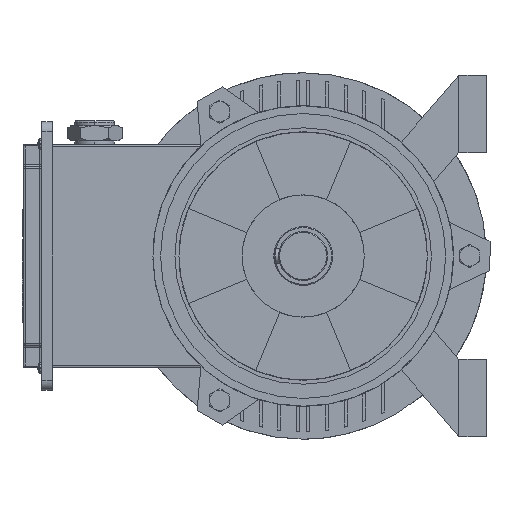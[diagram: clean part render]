
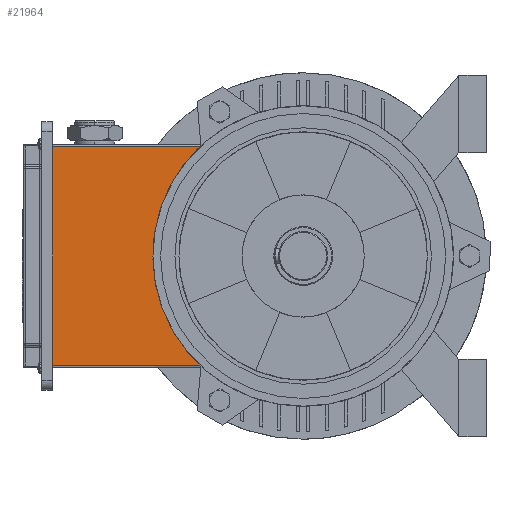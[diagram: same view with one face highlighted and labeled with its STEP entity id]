
A CAD part, left-side view. The second image highlights one B-rep face of the part: STEP entity #21964.
In plain terms, the highlighted planar face has unit normal (-1, 0, 0).
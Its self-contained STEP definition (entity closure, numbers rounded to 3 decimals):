
#511 = DIRECTION ( 'NONE',  ( 0., 1., 0. ) ) ;
#1659 = CARTESIAN_POINT ( 'NONE',  ( -269.499, 118.918, -68.148 ) ) ;
#4630 = CARTESIAN_POINT ( 'NONE',  ( -269.499, 130.049, 39.961 ) ) ;
#5116 = EDGE_CURVE ( 'NONE', #20748, #23339, #18589, .T. ) ;
#5586 = EDGE_LOOP ( 'NONE', ( #26161, #6275, #28666, #18543 ) ) ;
#6275 = ORIENTED_EDGE ( 'NONE', *, *, #39357, .T. ) ;
#7718 = CARTESIAN_POINT ( 'NONE',  ( -269.499, 233.803, 108. ) ) ;
#7808 = CARTESIAN_POINT ( 'NONE',  ( -269.499, 88.21, -108. ) ) ;
#8291 = CARTESIAN_POINT ( 'NONE',  ( -269.499, 109.553, -108. ) ) ;
#8907 = CARTESIAN_POINT ( 'NONE',  ( -269.499, 109.553, -3.5 ) ) ;
#11293 = LINE ( 'NONE', #21863, #26711 ) ;
#11301 = VECTOR ( 'NONE', #21078, 1000. ) ;
#12682 = LINE ( 'NONE', #8291, #11301 ) ;
#13050 = EDGE_CURVE ( 'NONE', #29995, #19440, #25199, .T. ) ;
#13611 = CARTESIAN_POINT ( 'NONE',  ( -269.499, 88.21, 108. ) ) ;
#14001 = CARTESIAN_POINT ( 'NONE',  ( -269.499, 130.049, -39.961 ) ) ;
#16196 = CARTESIAN_POINT ( 'NONE',  ( -269.499, 233.803, -108. ) ) ;
#16853 = CARTESIAN_POINT ( 'NONE',  ( -269.499, 102.276, 93.476 ) ) ;
#17130 = CARTESIAN_POINT ( 'NONE',  ( -269.499, 126.974, -49.633 ) ) ;
#18275 = DIRECTION ( 'NONE',  ( 0., 0., -1. ) ) ;
#18543 = ORIENTED_EDGE ( 'NONE', *, *, #21546, .F. ) ;
#18589 = LINE ( 'NONE', #21612, #24414 ) ;
#19424 = FACE_OUTER_BOUND ( 'NONE', #5586, .T. ) ;
#19440 = VERTEX_POINT ( 'NONE', #36945 ) ;
#19837 = CARTESIAN_POINT ( 'NONE',  ( -269.499, 135.203, -10.096 ) ) ;
#20107 = CARTESIAN_POINT ( 'NONE',  ( -269.499, 126.974, 49.633 ) ) ;
#20228 = CARTESIAN_POINT ( 'NONE',  ( -269.499, 113.937, -76.991 ) ) ;
#20748 = VERTEX_POINT ( 'NONE', #7718 ) ;
#21078 = DIRECTION ( 'NONE',  ( 0., 1., 0. ) ) ;
#21546 = EDGE_CURVE ( 'NONE', #19440, #23339, #12682, .T. ) ;
#21612 = CARTESIAN_POINT ( 'NONE',  ( -269.499, 233.803, -3.5 ) ) ;
#21863 = CARTESIAN_POINT ( 'NONE',  ( -269.499, 109.553, 108. ) ) ;
#21964 = ADVANCED_FACE ( 'NONE', ( #19424 ), #27381, .T. ) ;
#22921 = CARTESIAN_POINT ( 'NONE',  ( -269.499, 134.164, 20.192 ) ) ;
#23339 = VERTEX_POINT ( 'NONE', #16196 ) ;
#24414 = VECTOR ( 'NONE', #18275, 1000. ) ;
#24800 = DIRECTION ( 'NONE',  ( -1., 0., 0. ) ) ;
#25063 = DIRECTION ( 'NONE',  ( 0., 0., 1. ) ) ;
#25199 = B_SPLINE_CURVE_WITH_KNOTS ( 'NONE', 3,
 ( #13611, #26154, #16853, #38513, #32241, #20107, #4630, #22921, #32378, #19837, #26423, #14001, #17130, #1659, #20228, #26295, #35073, #7808 ),
 .UNSPECIFIED., .F., .F.,
 ( 4, 2, 2, 2, 2, 2, 2, 2, 4 ),
 ( 0., 0.125, 0.25, 0.375, 0.5, 0.625, 0.75, 0.875, 1. ),
 .UNSPECIFIED. ) ;
#26154 = CARTESIAN_POINT ( 'NONE',  ( -269.499, 95.598, 101.118 ) ) ;
#26161 = ORIENTED_EDGE ( 'NONE', *, *, #13050, .F. ) ;
#26295 = CARTESIAN_POINT ( 'NONE',  ( -269.499, 102.276, -93.476 ) ) ;
#26423 = CARTESIAN_POINT ( 'NONE',  ( -269.499, 134.164, -20.192 ) ) ;
#26711 = VECTOR ( 'NONE', #511, 1000. ) ;
#27381 = PLANE ( 'NONE',  #27709 ) ;
#27709 = AXIS2_PLACEMENT_3D ( 'NONE', #8907, #24800, #25063 ) ;
#28666 = ORIENTED_EDGE ( 'NONE', *, *, #5116, .T. ) ;
#29105 = CARTESIAN_POINT ( 'NONE',  ( -269.499, 88.21, 108. ) ) ;
#29995 = VERTEX_POINT ( 'NONE', #29105 ) ;
#32241 = CARTESIAN_POINT ( 'NONE',  ( -269.499, 118.918, 68.148 ) ) ;
#32378 = CARTESIAN_POINT ( 'NONE',  ( -269.499, 135.203, 10.096 ) ) ;
#35073 = CARTESIAN_POINT ( 'NONE',  ( -269.499, 95.598, -101.118 ) ) ;
#36945 = CARTESIAN_POINT ( 'NONE',  ( -269.499, 88.21, -108. ) ) ;
#38513 = CARTESIAN_POINT ( 'NONE',  ( -269.499, 113.937, 76.991 ) ) ;
#39357 = EDGE_CURVE ( 'NONE', #29995, #20748, #11293, .T. ) ;
